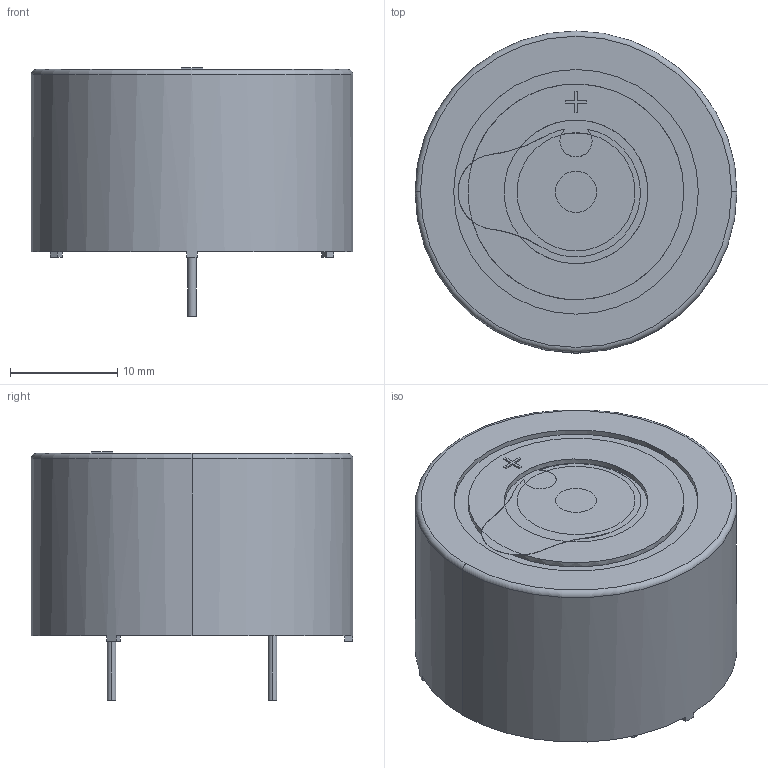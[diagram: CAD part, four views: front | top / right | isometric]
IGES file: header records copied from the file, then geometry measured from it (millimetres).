
Global section: file name: No Iges File Name specified; native system: AutoDesk Inventor R12.0; preprocessor: AutoDesk Inventor Iges Exporter R12.0; date: 20090219.143830; units: millimetre
Bounding box: 30 x 30 x 23.15 mm (x, y, z)
Surface area: 6698.2 mm2
Topology: 3 solids, 3 shells, 86 faces, 208 edges, 135 vertices
Faces by surface type: plane 44, cylinder 23, revolution 13, torus 4, bspline 2
